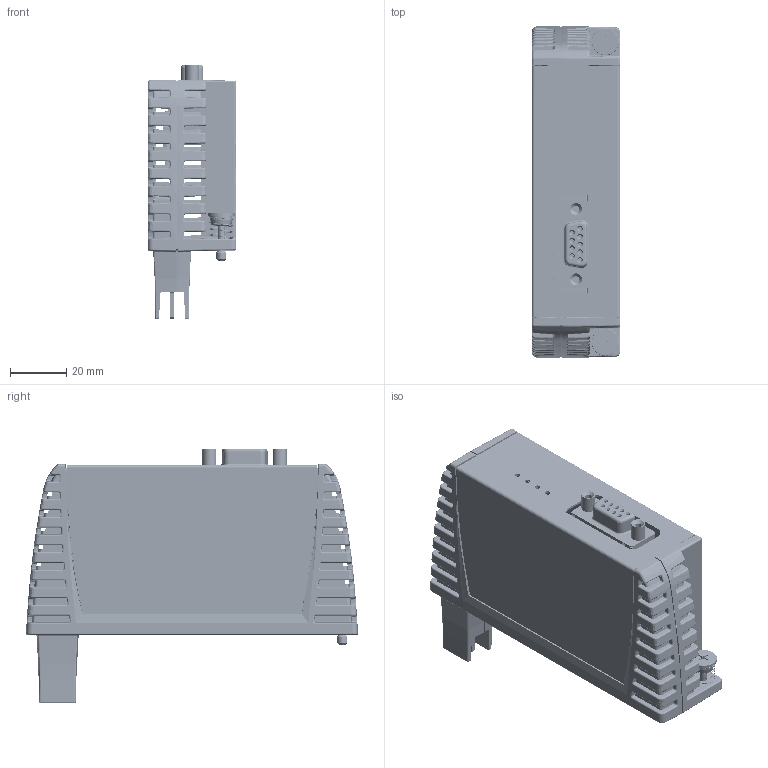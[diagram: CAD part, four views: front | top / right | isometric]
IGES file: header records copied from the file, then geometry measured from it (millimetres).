
Start section: SolidWorks IGES file using analytic representation for surfaces
Global section: file name: W:\Teams\HMI\temp_3D_Models_2013-09-17\Graphite\GMPBDP\GMPBDP.IGS; native system: SolidWorks 2014; preprocessor: SolidWorks 2014; author: ericp; date: 160330.065433; units: millimetre
Bounding box: 31.5 x 117.84 x 90.36 mm (x, y, z)
Surface area: 80535 mm2 (no closed solid volume)
Topology: 0 solids, 0 shells, 11638 faces, 79403 edges, 79375 vertices
Faces by surface type: bspline 8816, revolution 2822
